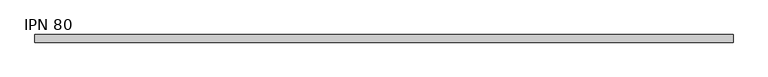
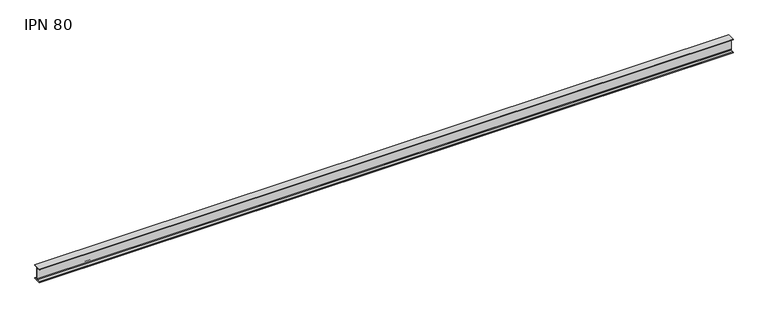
"""IFC4 building model written with IfcOpenShell, lengths in millimetres: beam geometry, IPN - Secciones en I con alas cónicas : IPN 80."""

from ifc_helpers import new_model, si_unit, point, frame, frame_2d, origin, place, context, project, spatial, polyline, circle_curve, trimmed, segment, composite_curve, outline, extrude, source, transform, mapped, element, save


def ipn_80_37723b1e(model_context):
    return source(origin(), model_context, "Body", "SweptSolid", [
        extrude(outline(composite_curve([segment(polyline([(21.0, 40.0), (21.0, 37.5704306)]), True, "CONTINUOUS"), segment(trimmed(circle_curve(frame_2d((18.7, 37.5704306)), 2.3), [point((21.0, 37.5704306))], [point((19.01889, 35.2926446))], False, "CARTESIAN"), True, "CONTINUOUS"), segment(polyline([(19.01889, 35.2926446), (5.3092734, 33.3732983)]), True, "CONTINUOUS"), segment(trimmed(circle_curve(frame_2d((5.85, 29.5109655)), 3.9), [point((5.3092734, 33.3732983))], [point((1.95, 29.5109655))], True, "CARTESIAN"), True, "CONTINUOUS"), segment(polyline([(1.95, 29.5109655), (1.95, -29.5109655)]), True, "CONTINUOUS"), segment(trimmed(circle_curve(frame_2d((5.85, -29.5109655)), 3.9), [point((1.95, -29.5109655))], [point((5.3092734, -33.3732983))], True, "CARTESIAN"), True, "CONTINUOUS"), segment(polyline([(5.3092734, -33.3732983), (19.01889, -35.2926446)]), True, "CONTINUOUS"), segment(trimmed(circle_curve(frame_2d((18.7, -37.5704306)), 2.3), [point((19.01889, -35.2926446))], [point((21.0, -37.5704306))], False, "CARTESIAN"), True, "CONTINUOUS"), segment(polyline([(21.0, -37.5704306), (21.0, -40.0), (-21.0, -40.0), (-21.0, -37.5704306)]), True, "CONTINUOUS"), segment(trimmed(circle_curve(frame_2d((-18.7, -37.5704306)), 2.3), [point((-21.0, -37.5704306))], [point((-19.01889, -35.2926446))], False, "CARTESIAN"), True, "CONTINUOUS"), segment(polyline([(-19.01889, -35.2926446), (-5.3092734, -33.3732983)]), True, "CONTINUOUS"), segment(trimmed(circle_curve(frame_2d((-5.85, -29.5109655)), 3.9), [point((-5.3092734, -33.3732983))], [point((-1.95, -29.5109655))], True, "CARTESIAN"), True, "CONTINUOUS"), segment(polyline([(-1.95, -29.5109655), (-1.95, 29.5109655)]), True, "CONTINUOUS"), segment(trimmed(circle_curve(frame_2d((-5.85, 29.5109655)), 3.9), [point((-1.95, 29.5109655))], [point((-5.3092734, 33.3732983))], True, "CARTESIAN"), True, "CONTINUOUS"), segment(polyline([(-5.3092734, 33.3732983), (-19.01889, 35.2926446)]), True, "CONTINUOUS"), segment(trimmed(circle_curve(frame_2d((-18.7, 37.5704306)), 2.3), [point((-19.01889, 35.2926446))], [point((-21.0, 37.5704306))], False, "CARTESIAN"), True, "CONTINUOUS"), segment(polyline([(-21.0, 37.5704306), (-21.0, 40.0), (21.0, 40.0)]), True, "CONTINUOUS")], self_intersect=False)), frame((-1933.85, 0.0, 0.0), z_axis=(1.0, 0.0, 0.0), x_axis=(0.0, 1.0, 0.0)), (0.0, 0.0, 1.0), 3840.85),
    ])


if __name__ == "__main__":
    model = new_model("IFC4")
    model_context = context("Model", 3, world=origin())
    ifc_project = project(units=[si_unit("LENGTHUNIT", "METRE", prefix="MILLI")], contexts=[model_context])
    site = spatial("IfcSite", under=ifc_project)
    building = spatial("IfcBuilding", under=site)
    placement = place(None, origin())
    ipn_80_shape = ipn_80_37723b1e(model_context)
    element("IfcBeam", 1, ObjectType="IPN - Secciones en I con alas cónicas : IPN 80", at=placement, inside=building, context=model_context, shape_type="MappedRepresentation", body=[
        mapped(ipn_80_shape, transform((0.0, 0.0, 0.0), x_axis=(1.0, 0.0, 0.0), y_axis=(0.0, 1.0, 0.0), z_axis=(0.0, 0.0, 1.0))),
    ])
    save(model, "model.ifc")
